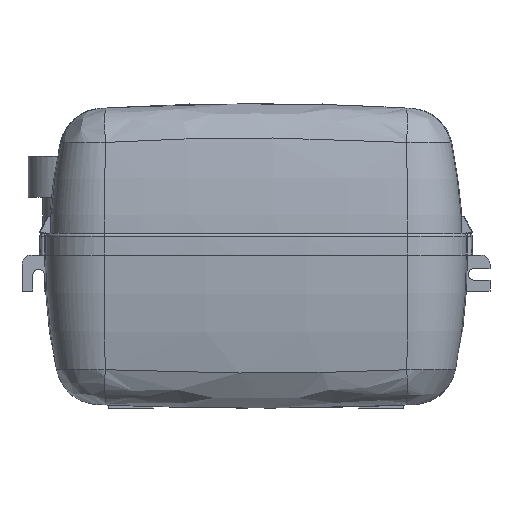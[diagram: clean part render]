
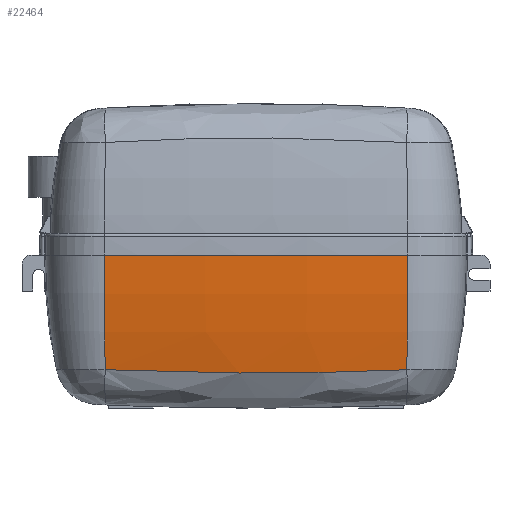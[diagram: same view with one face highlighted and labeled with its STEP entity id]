
A CAD part, front view. The second image highlights one B-rep face of the part: STEP entity #22464.
In plain terms, the highlighted toroidal (fillet/blend) face has major radius 850 mm and minor radius 350 mm.
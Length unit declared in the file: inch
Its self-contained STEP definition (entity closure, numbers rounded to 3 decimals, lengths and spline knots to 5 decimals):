
#1615 = DIRECTION ( 'NONE',  ( 0.998, 0.07, 0. ) ) ;
#3148 = CIRCLE ( 'NONE', #41616, 13.77953 ) ;
#4604 = ORIENTED_EDGE ( 'NONE', *, *, #39810, .F. ) ;
#5136 = AXIS2_PLACEMENT_3D ( 'NONE', #28722, #1615, #33278 ) ;
#5808 = CARTESIAN_POINT ( 'NONE',  ( -0.67273, 45.33641, 3.36614 ) ) ;
#5905 = CIRCLE ( 'NONE', #5136, 13.77953 ) ;
#6930 = AXIS2_PLACEMENT_3D ( 'NONE', #5808, #10376, #42048 ) ;
#8806 = EDGE_CURVE ( 'NONE', #56462, #42772, #29108, .T. ) ;
#8825 = CARTESIAN_POINT ( 'NONE',  ( -2.87243, -1.62637, 0.79068 ) ) ;
#10376 = DIRECTION ( 'NONE',  ( 0., 0., 1. ) ) ;
#12061 = B_SPLINE_CURVE_WITH_KNOTS ( 'NONE', 3,
 ( #13397, #8825, #22308, #45019, #18008 ),
 .UNSPECIFIED., .F., .F.,
 ( 4, 1, 4 ),
 ( 0., 0.08381, 0.16762 ),
 .UNSPECIFIED. ) ;
#13397 = CARTESIAN_POINT ( 'NONE',  ( -3.97227, -1.558, 0.83884 ) ) ;
#14598 = EDGE_CURVE ( 'NONE', #32062, #25469, #12061, .T. ) ;
#15289 = CARTESIAN_POINT ( 'NONE',  ( 2.64321, -1.79115, 3.34646 ) ) ;
#18008 = CARTESIAN_POINT ( 'NONE',  ( 2.62681, -1.558, 0.83884 ) ) ;
#20057 = DIRECTION ( 'NONE',  ( 0., 0., 1. ) ) ;
#20426 = DIRECTION ( 'NONE',  ( 0.998, -0.07, 0. ) ) ;
#22308 = CARTESIAN_POINT ( 'NONE',  ( -0.67273, -1.69414, 0.74258 ) ) ;
#22464 = ADVANCED_FACE ( 'NONE', ( #46000 ), #29782, .T. ) ;
#25469 = VERTEX_POINT ( 'NONE', #51752 ) ;
#26203 = CARTESIAN_POINT ( 'NONE',  ( -3.97227, -1.558, 0.83884 ) ) ;
#28722 = CARTESIAN_POINT ( 'NONE',  ( 1.67606, 11.95438, 3.36614 ) ) ;
#29108 = CIRCLE ( 'NONE', #53909, 47.24408 ) ;
#29514 = EDGE_CURVE ( 'NONE', #56462, #32062, #3148, .T. ) ;
#29782 = TOROIDAL_SURFACE ( 'NONE', #6930, 33.46457, 13.77953 ) ;
#32062 = VERTEX_POINT ( 'NONE', #26203 ) ;
#33278 = DIRECTION ( 'NONE',  ( 0., 0., -1. ) ) ;
#34020 = CARTESIAN_POINT ( 'NONE',  ( -3.98868, -1.79115, 3.34646 ) ) ;
#35257 = ORIENTED_EDGE ( 'NONE', *, *, #14598, .T. ) ;
#39810 = EDGE_CURVE ( 'NONE', #42772, #25469, #5905, .T. ) ;
#41616 = AXIS2_PLACEMENT_3D ( 'NONE', #47438, #20426, #51969 ) ;
#42048 = DIRECTION ( 'NONE',  ( 1., 0., 0. ) ) ;
#42772 = VERTEX_POINT ( 'NONE', #15289 ) ;
#44488 = ORIENTED_EDGE ( 'NONE', *, *, #29514, .T. ) ;
#45019 = CARTESIAN_POINT ( 'NONE',  ( 1.52696, -1.62637, 0.79068 ) ) ;
#46000 = FACE_OUTER_BOUND ( 'NONE', #50060, .T. ) ;
#47060 = DIRECTION ( 'NONE',  ( 1., 0., 0. ) ) ;
#47438 = CARTESIAN_POINT ( 'NONE',  ( -3.02153, 11.95438, 3.36614 ) ) ;
#47715 = ORIENTED_EDGE ( 'NONE', *, *, #8806, .F. ) ;
#50060 = EDGE_LOOP ( 'NONE', ( #44488, #35257, #4604, #47715 ) ) ;
#51610 = CARTESIAN_POINT ( 'NONE',  ( -0.67273, 45.33641, 3.34646 ) ) ;
#51752 = CARTESIAN_POINT ( 'NONE',  ( 2.62681, -1.558, 0.83884 ) ) ;
#51969 = DIRECTION ( 'NONE',  ( 0., 0., -1. ) ) ;
#53909 = AXIS2_PLACEMENT_3D ( 'NONE', #51610, #20057, #47060 ) ;
#56462 = VERTEX_POINT ( 'NONE', #34020 ) ;
